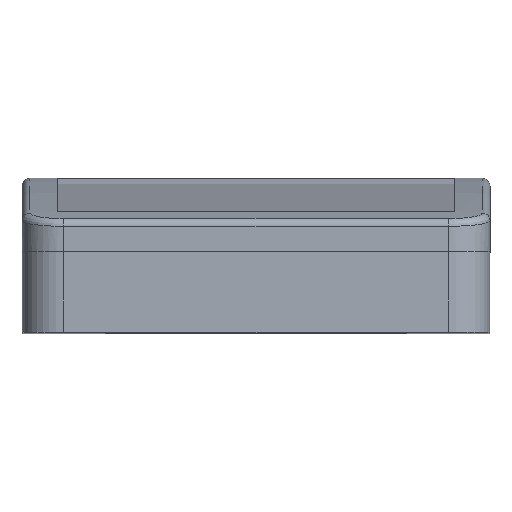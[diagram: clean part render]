
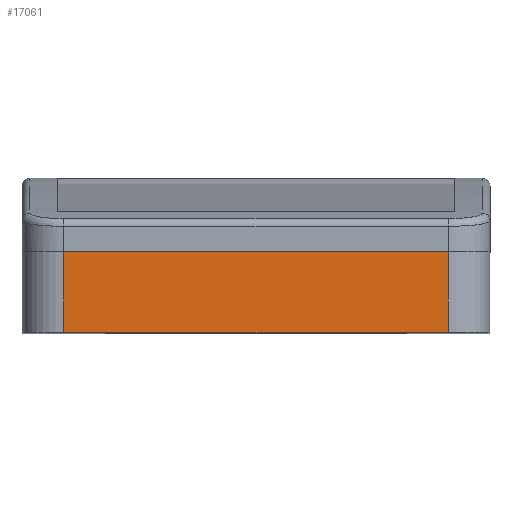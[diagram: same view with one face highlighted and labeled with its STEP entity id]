
A CAD part, top view. The second image highlights one B-rep face of the part: STEP entity #17061.
In plain terms, the highlighted planar face has unit normal (0, 0, 1) as drawn and (1, 0, 0) by its records, which use the part's own axes.
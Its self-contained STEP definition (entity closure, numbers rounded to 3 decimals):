
#63 = CARTESIAN_POINT ( 'NONE',  ( 72., 15.5, 36.9 ) ) ;
#669 = FACE_OUTER_BOUND ( 'NONE', #14428, .T. ) ;
#771 = VERTEX_POINT ( 'NONE', #63 ) ;
#794 = ORIENTED_EDGE ( 'NONE', *, *, #8605, .F. ) ;
#2066 = DIRECTION ( 'NONE',  ( 0., -1., 0. ) ) ;
#2444 = ORIENTED_EDGE ( 'NONE', *, *, #18974, .T. ) ;
#3055 = PLANE ( 'NONE',  #5661 ) ;
#3222 = VECTOR ( 'NONE', #7919, 1000. ) ;
#3498 = CARTESIAN_POINT ( 'NONE',  ( 72., 15.5, -44.9 ) ) ;
#4566 = CARTESIAN_POINT ( 'NONE',  ( 72., 17., -44.9 ) ) ;
#4847 = CARTESIAN_POINT ( 'NONE',  ( 72., 15.5, -36.9 ) ) ;
#5082 = VERTEX_POINT ( 'NONE', #4847 ) ;
#5661 = AXIS2_PLACEMENT_3D ( 'NONE', #4566, #6067, #16514 ) ;
#6067 = DIRECTION ( 'NONE',  ( -1., 0., 0. ) ) ;
#6414 = CARTESIAN_POINT ( 'NONE',  ( 72., 0., -44.9 ) ) ;
#6490 = DIRECTION ( 'NONE',  ( 0., 0., -1. ) ) ;
#6970 = EDGE_CURVE ( 'NONE', #771, #12731, #10135, .T. ) ;
#7919 = DIRECTION ( 'NONE',  ( 0., 0., -1. ) ) ;
#8145 = DIRECTION ( 'NONE',  ( 0., 1., 0. ) ) ;
#8605 = EDGE_CURVE ( 'NONE', #771, #5082, #15831, .T. ) ;
#8947 = ORIENTED_EDGE ( 'NONE', *, *, #17798, .T. ) ;
#8984 = LINE ( 'NONE', #17106, #16485 ) ;
#10135 = LINE ( 'NONE', #10964, #13656 ) ;
#10964 = CARTESIAN_POINT ( 'NONE',  ( 72., 17., 36.9 ) ) ;
#11139 = LINE ( 'NONE', #6414, #3222 ) ;
#12731 = VERTEX_POINT ( 'NONE', #18494 ) ;
#12763 = VECTOR ( 'NONE', #6490, 1000. ) ;
#13656 = VECTOR ( 'NONE', #2066, 1000. ) ;
#14428 = EDGE_LOOP ( 'NONE', ( #794, #14454, #8947, #2444 ) ) ;
#14454 = ORIENTED_EDGE ( 'NONE', *, *, #6970, .T. ) ;
#15831 = LINE ( 'NONE', #3498, #12763 ) ;
#16485 = VECTOR ( 'NONE', #8145, 1000. ) ;
#16514 = DIRECTION ( 'NONE',  ( 0., 0., 1. ) ) ;
#17061 = ADVANCED_FACE ( 'NONE', ( #669 ), #3055, .F. ) ;
#17106 = CARTESIAN_POINT ( 'NONE',  ( 72., 17., -36.9 ) ) ;
#17725 = CARTESIAN_POINT ( 'NONE',  ( 72., 0., -36.9 ) ) ;
#17798 = EDGE_CURVE ( 'NONE', #12731, #18127, #11139, .T. ) ;
#18127 = VERTEX_POINT ( 'NONE', #17725 ) ;
#18494 = CARTESIAN_POINT ( 'NONE',  ( 72., 0., 36.9 ) ) ;
#18974 = EDGE_CURVE ( 'NONE', #18127, #5082, #8984, .T. ) ;
